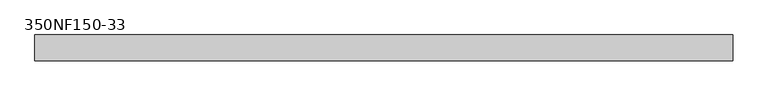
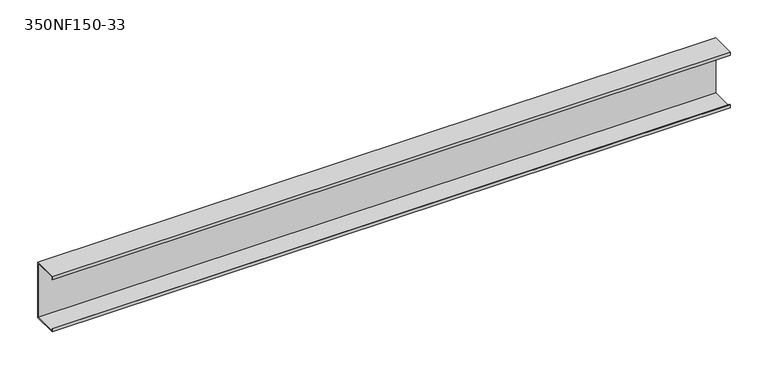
"""IFC4 building model written with IfcOpenShell, lengths in millimetres: beam geometry, BIMSF-SSMA-S : 350NF150-33."""

from ifc_helpers import new_model, si_unit, frame, origin, place, context, project, spatial, polyline, outline, extrude, source, transform, mapped, element, save


def beam_350nf150_33_6160dac6(model_context):
    return source(origin(), model_context, "Body", "SweptSolid", [
        extrude(outline(polyline([(19.05, 44.45), (19.05, -44.45), (-19.05, -44.45), (-19.05, -39.6748), (-18.1676842, -39.6748), (-18.1676842, -43.5676842), (18.1676842, -43.5676842), (18.1676842, 43.5676842), (-18.1676842, 43.5676842), (-18.1676842, 39.6748), (-19.05, 39.6748), (-19.05, 44.45), (19.05, 44.45)])), frame((-515.8365052, 0.0, 0.0), z_axis=(1.0, 0.0, 0.0), x_axis=(0.0, 1.0, 0.0)), (0.0, 0.0, 1.0), 1031.6730104),
    ])


if __name__ == "__main__":
    model = new_model("IFC4")
    model_context = context("Model", 3, world=origin())
    ifc_project = project(units=[si_unit("LENGTHUNIT", "METRE", prefix="MILLI")], contexts=[model_context])
    site = spatial("IfcSite", under=ifc_project)
    building = spatial("IfcBuilding", under=site)
    placement = place(None, origin())
    beam_350nf150_33_shape = beam_350nf150_33_6160dac6(model_context)
    element("IfcBeam", 1, ObjectType="BIMSF-SSMA-S : 350NF150-33", at=placement, inside=building, context=model_context, shape_type="MappedRepresentation", body=[
        mapped(beam_350nf150_33_shape, transform((0.0, 0.0, 0.0), x_axis=(1.0, 0.0, 0.0), y_axis=(0.0, 1.0, 0.0), z_axis=(0.0, 0.0, 1.0))),
    ])
    save(model, "model.ifc")
